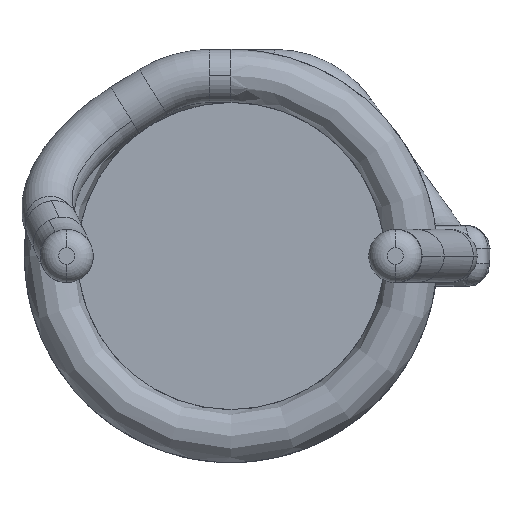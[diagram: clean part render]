
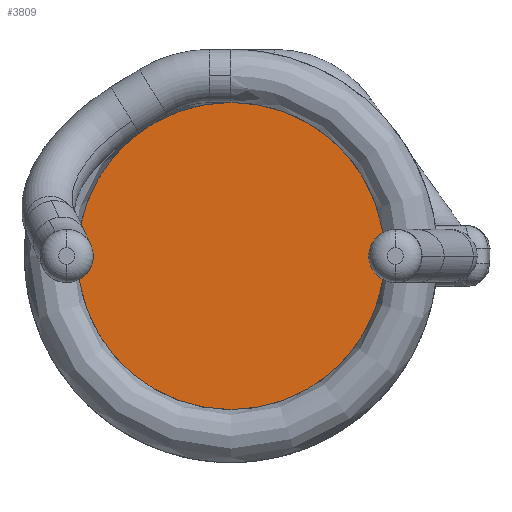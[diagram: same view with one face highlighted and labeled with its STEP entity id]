
A CAD part, front view. The second image highlights one B-rep face of the part: STEP entity #3809.
In plain terms, the highlighted planar face has unit normal (0, -1, 0).
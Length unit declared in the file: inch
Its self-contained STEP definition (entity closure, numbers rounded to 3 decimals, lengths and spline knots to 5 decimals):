
#15 = AXIS2_PLACEMENT_3D ( 'NONE', #1422, #983, #3971 ) ;
#298 = CIRCLE ( 'NONE', #5353, 0.19685 ) ;
#613 = AXIS2_PLACEMENT_3D ( 'NONE', #850, #3952, #1950 ) ;
#850 = CARTESIAN_POINT ( 'NONE',  ( 0., 0., 0. ) ) ;
#983 = DIRECTION ( 'NONE',  ( 0., 1., 0. ) ) ;
#1050 = EDGE_CURVE ( 'NONE', #6539, #2971, #2135, .T. ) ;
#1342 = CARTESIAN_POINT ( 'NONE',  ( 0., 0., -0.19685 ) ) ;
#1422 = CARTESIAN_POINT ( 'NONE',  ( 0., 0., 0. ) ) ;
#1522 = CARTESIAN_POINT ( 'NONE',  ( 0., 0., 0. ) ) ;
#1582 = EDGE_CURVE ( 'NONE', #2971, #6539, #298, .T. ) ;
#1950 = DIRECTION ( 'NONE',  ( 0., 0., 1. ) ) ;
#2135 = CIRCLE ( 'NONE', #15, 0.19685 ) ;
#2612 = FACE_OUTER_BOUND ( 'NONE', #5984, .T. ) ;
#2971 = VERTEX_POINT ( 'NONE', #4334 ) ;
#3278 = PLANE ( 'NONE',  #613 ) ;
#3593 = ORIENTED_EDGE ( 'NONE', *, *, #1582, .F. ) ;
#3809 = ADVANCED_FACE ( 'NONE', ( #2612 ), #3278, .F. ) ;
#3952 = DIRECTION ( 'NONE',  ( 0., 1., 0. ) ) ;
#3971 = DIRECTION ( 'NONE',  ( 0., 0., 1. ) ) ;
#4292 = DIRECTION ( 'NONE',  ( 0., 0., 1. ) ) ;
#4334 = CARTESIAN_POINT ( 'NONE',  ( 0., 0., 0.19685 ) ) ;
#5314 = ORIENTED_EDGE ( 'NONE', *, *, #1050, .F. ) ;
#5352 = DIRECTION ( 'NONE',  ( 0., 1., 0. ) ) ;
#5353 = AXIS2_PLACEMENT_3D ( 'NONE', #1522, #5352, #4292 ) ;
#5984 = EDGE_LOOP ( 'NONE', ( #5314, #3593 ) ) ;
#6539 = VERTEX_POINT ( 'NONE', #1342 ) ;
